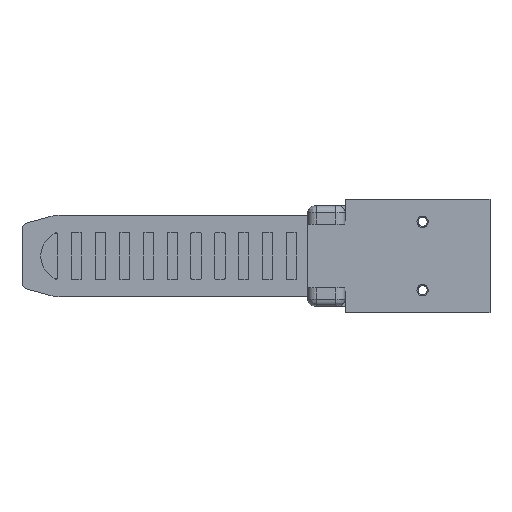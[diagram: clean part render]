
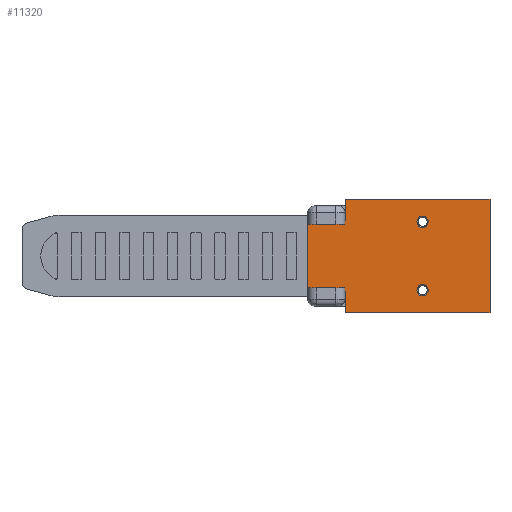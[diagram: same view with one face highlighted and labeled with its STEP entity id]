
A CAD part, front view. The second image highlights one B-rep face of the part: STEP entity #11320.
In plain terms, the highlighted planar face has unit normal (0, -1, 0).
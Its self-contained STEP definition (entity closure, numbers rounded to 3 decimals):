
#41 = VECTOR ( 'NONE', #1400, 1000. ) ;
#95 = ORIENTED_EDGE ( 'NONE', *, *, #1242, .T. ) ;
#269 = DIRECTION ( 'NONE',  ( 0., 0., 1. ) ) ;
#306 = VECTOR ( 'NONE', #1948, 1000. ) ;
#363 = CARTESIAN_POINT ( 'NONE',  ( -6., -5., -7.8 ) ) ;
#691 = DIRECTION ( 'NONE',  ( 0., 0., -1. ) ) ;
#845 = DIRECTION ( 'NONE',  ( 0., 1., 0. ) ) ;
#1010 = VERTEX_POINT ( 'NONE', #7436 ) ;
#1042 = EDGE_LOOP ( 'NONE', ( #14466, #6329 ) ) ;
#1163 = CARTESIAN_POINT ( 'NONE',  ( -6., -5., 12.5 ) ) ;
#1242 = EDGE_CURVE ( 'NONE', #10959, #1010, #13187, .T. ) ;
#1277 = VECTOR ( 'NONE', #14808, 1000. ) ;
#1400 = DIRECTION ( 'NONE',  ( 0., 0., -1. ) ) ;
#1452 = VECTOR ( 'NONE', #4609, 1000. ) ;
#1500 = CARTESIAN_POINT ( 'NONE',  ( 11., -5., -8.75 ) ) ;
#1744 = VECTOR ( 'NONE', #1928, 1000. ) ;
#1928 = DIRECTION ( 'NONE',  ( 1., 0., 0. ) ) ;
#1948 = DIRECTION ( 'NONE',  ( 0., 0., -1. ) ) ;
#1964 = LINE ( 'NONE', #10249, #9194 ) ;
#2047 = VERTEX_POINT ( 'NONE', #16712 ) ;
#2106 = DIRECTION ( 'NONE',  ( 1., 0., 0. ) ) ;
#2145 = AXIS2_PLACEMENT_3D ( 'NONE', #5018, #14405, #6328 ) ;
#2240 = DIRECTION ( 'NONE',  ( 0., 0., 1. ) ) ;
#2409 = CIRCLE ( 'NONE', #3810, 1.25 ) ;
#2579 = VERTEX_POINT ( 'NONE', #7613 ) ;
#2860 = EDGE_CURVE ( 'NONE', #6338, #4295, #14925, .T. ) ;
#2944 = PLANE ( 'NONE',  #6678 ) ;
#3230 = DIRECTION ( 'NONE',  ( 0., 1., 0. ) ) ;
#3375 = EDGE_CURVE ( 'NONE', #9375, #4114, #3786, .T. ) ;
#3587 = CARTESIAN_POINT ( 'NONE',  ( 11., -5., -7.5 ) ) ;
#3786 = LINE ( 'NONE', #1163, #41 ) ;
#3810 = AXIS2_PLACEMENT_3D ( 'NONE', #15407, #7368, #16742 ) ;
#4114 = VERTEX_POINT ( 'NONE', #14725 ) ;
#4295 = VERTEX_POINT ( 'NONE', #1500 ) ;
#4511 = EDGE_CURVE ( 'NONE', #13281, #4114, #15654, .T. ) ;
#4577 = EDGE_CURVE ( 'NONE', #1010, #2579, #1964, .T. ) ;
#4609 = DIRECTION ( 'NONE',  ( 1., 0., 0. ) ) ;
#4907 = CARTESIAN_POINT ( 'NONE',  ( 25.8, -5., 12.5 ) ) ;
#5018 = CARTESIAN_POINT ( 'NONE',  ( 11., -5., 7.5 ) ) ;
#5470 = VECTOR ( 'NONE', #691, 1000. ) ;
#5496 = EDGE_LOOP ( 'NONE', ( #9425, #95, #8022, #9057, #6708, #17235, #13674, #13290 ) ) ;
#5682 = VERTEX_POINT ( 'NONE', #6046 ) ;
#5977 = VERTEX_POINT ( 'NONE', #16099 ) ;
#6046 = CARTESIAN_POINT ( 'NONE',  ( -14.2, -5., -7.8 ) ) ;
#6145 = CARTESIAN_POINT ( 'NONE',  ( 25.8, -5., 12.5 ) ) ;
#6300 = CIRCLE ( 'NONE', #15640, 1.25 ) ;
#6328 = DIRECTION ( 'NONE',  ( 0., 0., 1. ) ) ;
#6329 = ORIENTED_EDGE ( 'NONE', *, *, #6664, .T. ) ;
#6338 = VERTEX_POINT ( 'NONE', #6575 ) ;
#6575 = CARTESIAN_POINT ( 'NONE',  ( 11., -5., -6.25 ) ) ;
#6664 = EDGE_CURVE ( 'NONE', #4295, #6338, #6300, .T. ) ;
#6678 = AXIS2_PLACEMENT_3D ( 'NONE', #16491, #8485, #269 ) ;
#6708 = ORIENTED_EDGE ( 'NONE', *, *, #8619, .F. ) ;
#7368 = DIRECTION ( 'NONE',  ( 0., 1., 0. ) ) ;
#7436 = CARTESIAN_POINT ( 'NONE',  ( -6., -5., -12.5 ) ) ;
#7613 = CARTESIAN_POINT ( 'NONE',  ( 25.8, -5., -12.5 ) ) ;
#7799 = EDGE_CURVE ( 'NONE', #2047, #5977, #16852, .T. ) ;
#8022 = ORIENTED_EDGE ( 'NONE', *, *, #4577, .T. ) ;
#8485 = DIRECTION ( 'NONE',  ( 0., 1., 0. ) ) ;
#8619 = EDGE_CURVE ( 'NONE', #9375, #16097, #15785, .T. ) ;
#9012 = CARTESIAN_POINT ( 'NONE',  ( 11., -5., -7.5 ) ) ;
#9057 = ORIENTED_EDGE ( 'NONE', *, *, #9305, .F. ) ;
#9085 = LINE ( 'NONE', #6145, #5470 ) ;
#9194 = VECTOR ( 'NONE', #2106, 1000. ) ;
#9254 = EDGE_CURVE ( 'NONE', #13281, #5682, #10792, .T. ) ;
#9305 = EDGE_CURVE ( 'NONE', #16097, #2579, #9085, .T. ) ;
#9375 = VERTEX_POINT ( 'NONE', #17056 ) ;
#9425 = ORIENTED_EDGE ( 'NONE', *, *, #16313, .F. ) ;
#9627 = VECTOR ( 'NONE', #14409, 1000. ) ;
#9693 = CARTESIAN_POINT ( 'NONE',  ( -14.2, -5., 7.8 ) ) ;
#10249 = CARTESIAN_POINT ( 'NONE',  ( -14.2, -5., -12.5 ) ) ;
#10379 = DIRECTION ( 'NONE',  ( 0., 0., 1. ) ) ;
#10792 = LINE ( 'NONE', #16762, #306 ) ;
#10916 = FACE_BOUND ( 'NONE', #11695, .T. ) ;
#10959 = VERTEX_POINT ( 'NONE', #363 ) ;
#11320 = ADVANCED_FACE ( 'NONE', ( #14862, #10916, #11336 ), #2944, .F. ) ;
#11336 = FACE_OUTER_BOUND ( 'NONE', #5496, .T. ) ;
#11401 = CARTESIAN_POINT ( 'NONE',  ( -14.2, -5., 7.8 ) ) ;
#11695 = EDGE_LOOP ( 'NONE', ( #13996, #16142 ) ) ;
#12082 = CARTESIAN_POINT ( 'NONE',  ( -14.2, -5., -7.8 ) ) ;
#12105 = LINE ( 'NONE', #12082, #1277 ) ;
#12645 = CARTESIAN_POINT ( 'NONE',  ( -14.2, -5., 12.5 ) ) ;
#13187 = LINE ( 'NONE', #14539, #9627 ) ;
#13281 = VERTEX_POINT ( 'NONE', #9693 ) ;
#13290 = ORIENTED_EDGE ( 'NONE', *, *, #9254, .T. ) ;
#13443 = EDGE_CURVE ( 'NONE', #5977, #2047, #2409, .T. ) ;
#13674 = ORIENTED_EDGE ( 'NONE', *, *, #4511, .F. ) ;
#13996 = ORIENTED_EDGE ( 'NONE', *, *, #7799, .T. ) ;
#14405 = DIRECTION ( 'NONE',  ( 0., 1., 0. ) ) ;
#14409 = DIRECTION ( 'NONE',  ( 0., 0., -1. ) ) ;
#14466 = ORIENTED_EDGE ( 'NONE', *, *, #2860, .T. ) ;
#14539 = CARTESIAN_POINT ( 'NONE',  ( -6., -5., 12.5 ) ) ;
#14725 = CARTESIAN_POINT ( 'NONE',  ( -6., -5., 7.8 ) ) ;
#14808 = DIRECTION ( 'NONE',  ( -1., 0., 0. ) ) ;
#14862 = FACE_BOUND ( 'NONE', #1042, .T. ) ;
#14925 = CIRCLE ( 'NONE', #15925, 1.25 ) ;
#15407 = CARTESIAN_POINT ( 'NONE',  ( 11., -5., 7.5 ) ) ;
#15640 = AXIS2_PLACEMENT_3D ( 'NONE', #9012, #845, #10379 ) ;
#15654 = LINE ( 'NONE', #11401, #1744 ) ;
#15785 = LINE ( 'NONE', #12645, #1452 ) ;
#15925 = AXIS2_PLACEMENT_3D ( 'NONE', #3587, #3230, #2240 ) ;
#16097 = VERTEX_POINT ( 'NONE', #4907 ) ;
#16099 = CARTESIAN_POINT ( 'NONE',  ( 11., -5., 6.25 ) ) ;
#16142 = ORIENTED_EDGE ( 'NONE', *, *, #13443, .T. ) ;
#16313 = EDGE_CURVE ( 'NONE', #10959, #5682, #12105, .T. ) ;
#16491 = CARTESIAN_POINT ( 'NONE',  ( -14.2, -5., 12.5 ) ) ;
#16712 = CARTESIAN_POINT ( 'NONE',  ( 11., -5., 8.75 ) ) ;
#16742 = DIRECTION ( 'NONE',  ( 0., 0., 1. ) ) ;
#16762 = CARTESIAN_POINT ( 'NONE',  ( -14.2, -5., 12.5 ) ) ;
#16852 = CIRCLE ( 'NONE', #2145, 1.25 ) ;
#17056 = CARTESIAN_POINT ( 'NONE',  ( -6., -5., 12.5 ) ) ;
#17235 = ORIENTED_EDGE ( 'NONE', *, *, #3375, .T. ) ;
